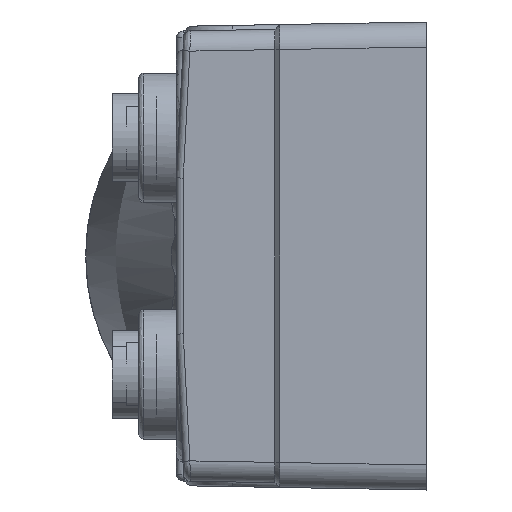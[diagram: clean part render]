
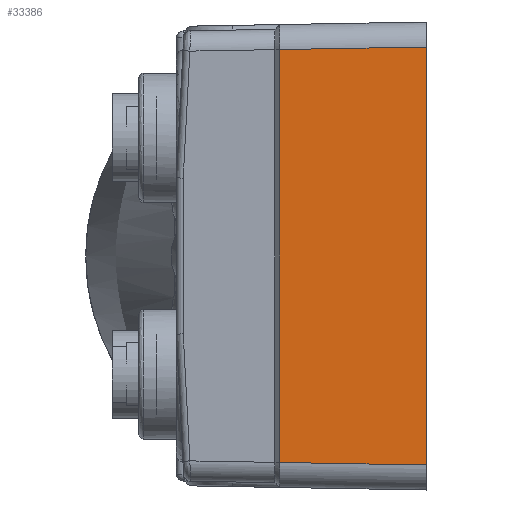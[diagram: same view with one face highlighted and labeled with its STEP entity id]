
A CAD part, left-side view. The second image highlights one B-rep face of the part: STEP entity #33386.
In plain terms, the highlighted planar face has unit normal (-1, 0.018, 0).
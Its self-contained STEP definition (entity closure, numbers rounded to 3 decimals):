
#505 = LINE ( 'NONE', #30847, #12832 ) ;
#640 = ORIENTED_EDGE ( 'NONE', *, *, #8778, .T. ) ;
#644 = LINE ( 'NONE', #18182, #35969 ) ;
#2689 = DIRECTION ( 'NONE',  ( -0.017, -1., -0.017 ) ) ;
#6212 = LINE ( 'NONE', #44119, #38277 ) ;
#6471 = FACE_OUTER_BOUND ( 'NONE', #23160, .T. ) ;
#8778 = EDGE_CURVE ( 'NONE', #30932, #9375, #6212, .T. ) ;
#9375 = VERTEX_POINT ( 'NONE', #11773 ) ;
#11129 = VERTEX_POINT ( 'NONE', #19368 ) ;
#11431 = VECTOR ( 'NONE', #2689, 1000. ) ;
#11773 = CARTESIAN_POINT ( 'NONE',  ( -118.53, 3.596, -4.706 ) ) ;
#12454 = DIRECTION ( 'NONE',  ( -1., 0.017, 0. ) ) ;
#12832 = VECTOR ( 'NONE', #30274, 1000. ) ;
#13350 = CARTESIAN_POINT ( 'NONE',  ( -118.694, -5.793, 21.889 ) ) ;
#17168 = EDGE_CURVE ( 'NONE', #28586, #30932, #644, .T. ) ;
#18182 = CARTESIAN_POINT ( 'NONE',  ( -118.52, 4.179, 21.715 ) ) ;
#18801 = EDGE_CURVE ( 'NONE', #28586, #11129, #505, .T. ) ;
#19368 = CARTESIAN_POINT ( 'NONE',  ( -118.694, -5.793, -4.87 ) ) ;
#22903 = CARTESIAN_POINT ( 'NONE',  ( -118.511, 4.696, -4.687 ) ) ;
#23160 = EDGE_LOOP ( 'NONE', ( #30672, #640, #29523, #28053 ) ) ;
#24120 = EDGE_CURVE ( 'NONE', #9375, #11129, #40317, .T. ) ;
#25138 = AXIS2_PLACEMENT_3D ( 'NONE', #32937, #12454, #43533 ) ;
#26583 = CARTESIAN_POINT ( 'NONE',  ( -118.53, 3.596, 21.725 ) ) ;
#28053 = ORIENTED_EDGE ( 'NONE', *, *, #18801, .F. ) ;
#28586 = VERTEX_POINT ( 'NONE', #13350 ) ;
#29523 = ORIENTED_EDGE ( 'NONE', *, *, #24120, .T. ) ;
#30274 = DIRECTION ( 'NONE',  ( 0., 0., -1. ) ) ;
#30672 = ORIENTED_EDGE ( 'NONE', *, *, #17168, .T. ) ;
#30847 = CARTESIAN_POINT ( 'NONE',  ( -118.694, -5.793, 23.314 ) ) ;
#30932 = VERTEX_POINT ( 'NONE', #26583 ) ;
#32937 = CARTESIAN_POINT ( 'NONE',  ( -118.52, 4.207, 23.314 ) ) ;
#33386 = ADVANCED_FACE ( 'NONE', ( #6471 ), #39965, .T. ) ;
#33388 = DIRECTION ( 'NONE',  ( 0., 0., -1. ) ) ;
#35524 = DIRECTION ( 'NONE',  ( 0.017, 1., -0.017 ) ) ;
#35969 = VECTOR ( 'NONE', #35524, 1000. ) ;
#38277 = VECTOR ( 'NONE', #33388, 1000. ) ;
#39965 = PLANE ( 'NONE',  #25138 ) ;
#40317 = LINE ( 'NONE', #22903, #11431 ) ;
#43533 = DIRECTION ( 'NONE',  ( -0.017, -1., 0. ) ) ;
#44119 = CARTESIAN_POINT ( 'NONE',  ( -118.53, 3.596, 23.314 ) ) ;
